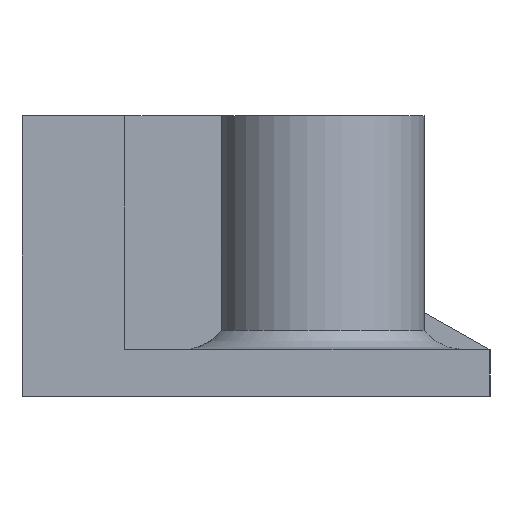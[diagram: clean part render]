
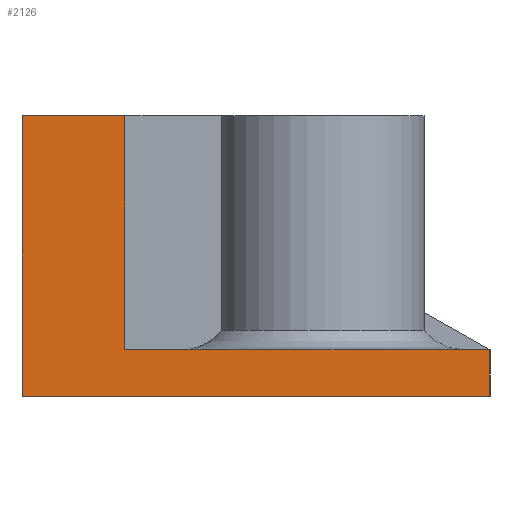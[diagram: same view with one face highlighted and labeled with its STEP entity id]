
A CAD part, left-side view. The second image highlights one B-rep face of the part: STEP entity #2126.
In plain terms, the highlighted planar face has unit normal (-1, 0, 0).
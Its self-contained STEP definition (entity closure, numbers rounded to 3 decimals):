
#24=B_SPLINE_CURVE_WITH_KNOTS('',3,(#3487,#3488,#3489,#3490,#3491,#3492,
#3493,#3494,#3495,#3496),.UNSPECIFIED.,.F.,.F.,(4,2,2,2,4),(2.836,
2.87,2.951,3.033,3.066),
 .UNSPECIFIED.);
#125=PLANE('',#2304);
#215=FACE_OUTER_BOUND('',#350,.T.);
#350=EDGE_LOOP('',(#1753,#1754,#1755,#1756,#1757,#1758,#1759,#1760));
#461=LINE('',#3006,#668);
#525=LINE('',#3178,#732);
#531=LINE('',#3207,#738);
#609=LINE('',#3480,#816);
#610=LINE('',#3484,#817);
#611=LINE('',#3486,#818);
#612=LINE('',#3497,#819);
#668=VECTOR('',#2390,10.);
#732=VECTOR('',#2514,10.);
#738=VECTOR('',#2546,10.);
#816=VECTOR('',#2786,10.);
#817=VECTOR('',#2791,10.);
#818=VECTOR('',#2792,10.);
#819=VECTOR('',#2793,10.);
#877=VERTEX_POINT('',#3004);
#878=VERTEX_POINT('',#3005);
#948=VERTEX_POINT('',#3160);
#956=VERTEX_POINT('',#3176);
#966=VERTEX_POINT('',#3206);
#1024=VERTEX_POINT('',#3479);
#1025=VERTEX_POINT('',#3483);
#1026=VERTEX_POINT('',#3485);
#1076=EDGE_CURVE('',#877,#878,#461,.T.);
#1162=EDGE_CURVE('',#956,#948,#525,.T.);
#1176=EDGE_CURVE('',#878,#966,#531,.T.);
#1287=EDGE_CURVE('',#948,#1024,#609,.T.);
#1289=EDGE_CURVE('',#1025,#877,#610,.T.);
#1290=EDGE_CURVE('',#1026,#1025,#611,.T.);
#1291=EDGE_CURVE('',#1026,#1024,#24,.F.);
#1292=EDGE_CURVE('',#956,#966,#612,.T.);
#1753=ORIENTED_EDGE('',*,*,#1076,.F.);
#1754=ORIENTED_EDGE('',*,*,#1289,.F.);
#1755=ORIENTED_EDGE('',*,*,#1290,.F.);
#1756=ORIENTED_EDGE('',*,*,#1291,.T.);
#1757=ORIENTED_EDGE('',*,*,#1287,.F.);
#1758=ORIENTED_EDGE('',*,*,#1162,.F.);
#1759=ORIENTED_EDGE('',*,*,#1292,.T.);
#1760=ORIENTED_EDGE('',*,*,#1176,.F.);
#2126=ADVANCED_FACE('',(#215),#125,.T.);
#2304=AXIS2_PLACEMENT_3D('',#3482,#2789,#2790);
#2390=DIRECTION('',(0.,1.,0.));
#2514=DIRECTION('',(0.,0.,-1.));
#2546=DIRECTION('',(0.,0.,1.));
#2786=DIRECTION('',(0.,-1.,0.));
#2789=DIRECTION('center_axis',(-1.,0.,0.));
#2790=DIRECTION('ref_axis',(0.,1.,0.));
#2791=DIRECTION('',(0.,0.,-1.));
#2792=DIRECTION('',(0.,-1.,0.));
#2793=DIRECTION('',(0.,1.,0.));
#3004=CARTESIAN_POINT('',(-75.,-25.,-5.));
#3005=CARTESIAN_POINT('',(-75.,25.013,-5.));
#3006=CARTESIAN_POINT('',(-75.,25.,-5.));
#3160=CARTESIAN_POINT('',(-75.,14.013,0.));
#3176=CARTESIAN_POINT('',(-75.,14.013,25.));
#3178=CARTESIAN_POINT('',(-75.,14.013,5.));
#3206=CARTESIAN_POINT('',(-75.,25.013,25.));
#3207=CARTESIAN_POINT('',(-75.,25.013,0.));
#3479=CARTESIAN_POINT('',(-75.,-5.774,0.));
#3480=CARTESIAN_POINT('',(-75.,25.,0.));
#3482=CARTESIAN_POINT('Origin',(-75.,-25.,0.));
#3483=CARTESIAN_POINT('',(-75.,-25.,0.));
#3484=CARTESIAN_POINT('',(-75.,-25.,0.));
#3485=CARTESIAN_POINT('',(-75.,-8.226,0.));
#3486=CARTESIAN_POINT('',(-75.,25.,0.));
#3487=CARTESIAN_POINT('Ctrl Pts',(-75.,-5.774,0.));
#3488=CARTESIAN_POINT('Ctrl Pts',(-75.,-5.887,0.));
#3489=CARTESIAN_POINT('Ctrl Pts',(-75.,-6.021,0.));
#3490=CARTESIAN_POINT('Ctrl Pts',(-75.,-6.404,0.));
#3491=CARTESIAN_POINT('Ctrl Pts',(-75.,-6.729,0.));
#3492=CARTESIAN_POINT('Ctrl Pts',(-75.,-7.271,0.));
#3493=CARTESIAN_POINT('Ctrl Pts',(-75.,-7.596,0.));
#3494=CARTESIAN_POINT('Ctrl Pts',(-75.,-7.979,0.));
#3495=CARTESIAN_POINT('Ctrl Pts',(-75.,-8.113,0.));
#3496=CARTESIAN_POINT('Ctrl Pts',(-75.,-8.226,0.));
#3497=CARTESIAN_POINT('',(-75.,-4.987,25.));
